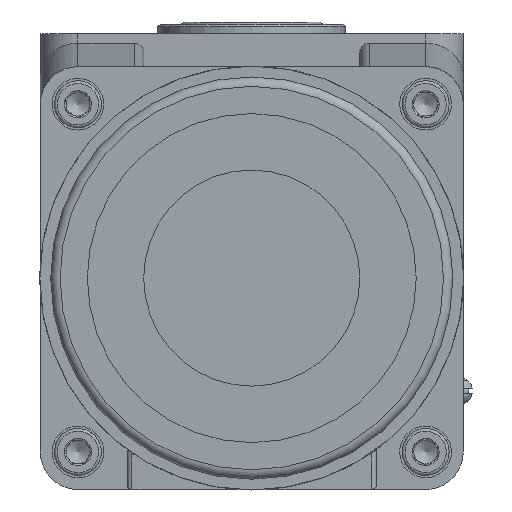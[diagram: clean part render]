
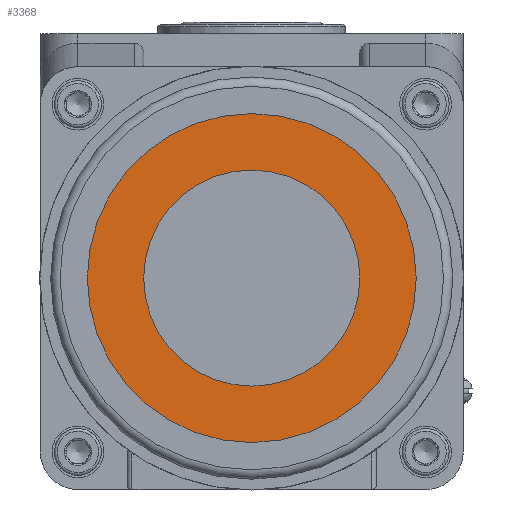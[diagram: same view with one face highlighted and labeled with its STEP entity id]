
A CAD part, front view. The second image highlights one B-rep face of the part: STEP entity #3368.
In plain terms, the highlighted planar face has unit normal (0, -1, 0).
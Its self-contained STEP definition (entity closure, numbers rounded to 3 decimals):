
#3368=ADVANCED_FACE('',(#4298,#4299),#3976,.F.);
#3976=PLANE('',#10952);
#4298=FACE_BOUND('',#4654,.T.);
#4299=FACE_BOUND('',#4655,.T.);
#4654=EDGE_LOOP('',(#5593));
#4655=EDGE_LOOP('',(#5594));
#5593=ORIENTED_EDGE('',*,*,#8911,.T.);
#5594=ORIENTED_EDGE('',*,*,#8910,.F.);
#8040=VERTEX_POINT('',#15348);
#8041=VERTEX_POINT('',#15351);
#8910=EDGE_CURVE('',#8040,#8040,#10153,.T.);
#8911=EDGE_CURVE('',#8041,#8041,#10154,.T.);
#10153=CIRCLE('',#10949,23.);
#10154=CIRCLE('',#10951,35.);
#10949=AXIS2_PLACEMENT_3D('',#15347,#12304,#12305);
#10951=AXIS2_PLACEMENT_3D('',#15350,#12308,#12309);
#10952=AXIS2_PLACEMENT_3D('',#15352,#12310,#12311);
#12304=DIRECTION('',(0.,-1.,0.));
#12305=DIRECTION('',(0.,0.,-1.));
#12308=DIRECTION('',(0.,-1.,0.));
#12309=DIRECTION('',(0.,0.,-1.));
#12310=DIRECTION('',(0.,1.,0.));
#12311=DIRECTION('',(0.,0.,1.));
#15347=CARTESIAN_POINT('',(0.,-197.5,-52.));
#15348=CARTESIAN_POINT('',(0.,-197.5,-75.));
#15350=CARTESIAN_POINT('',(0.,-197.5,-52.));
#15351=CARTESIAN_POINT('',(0.,-197.5,-87.));
#15352=CARTESIAN_POINT('',(35.,-197.5,-52.));
